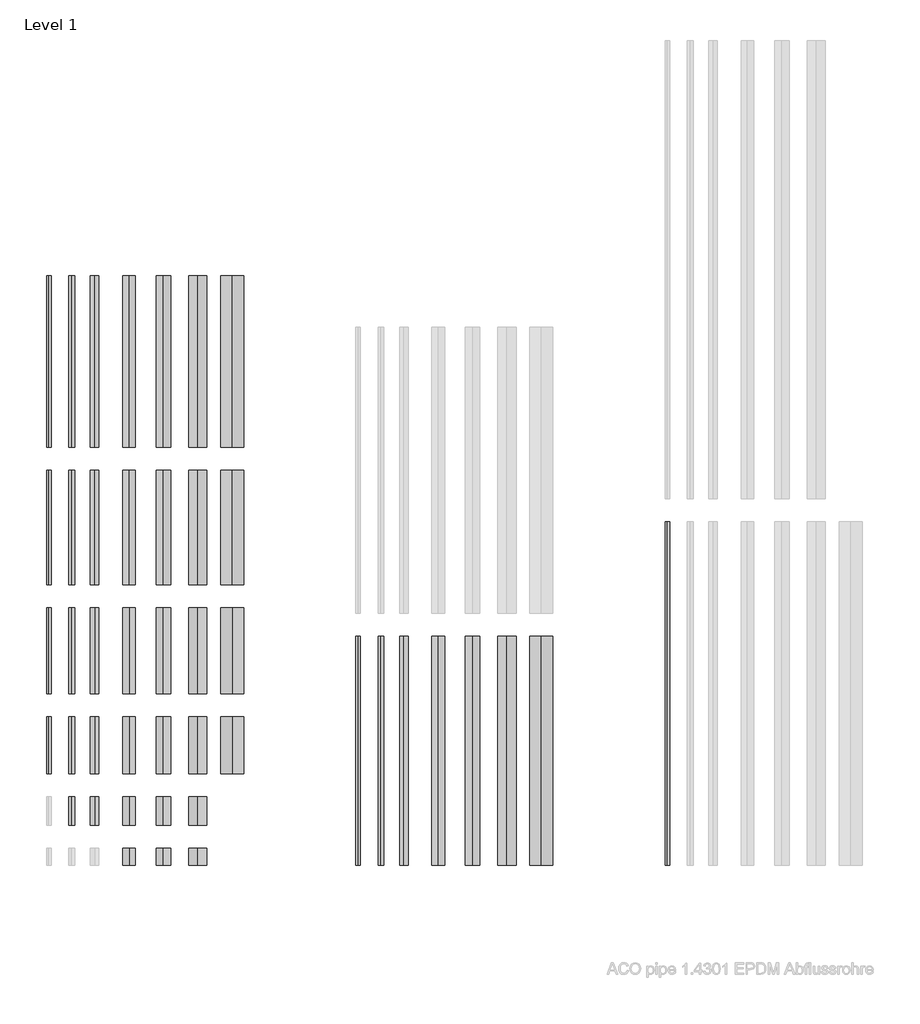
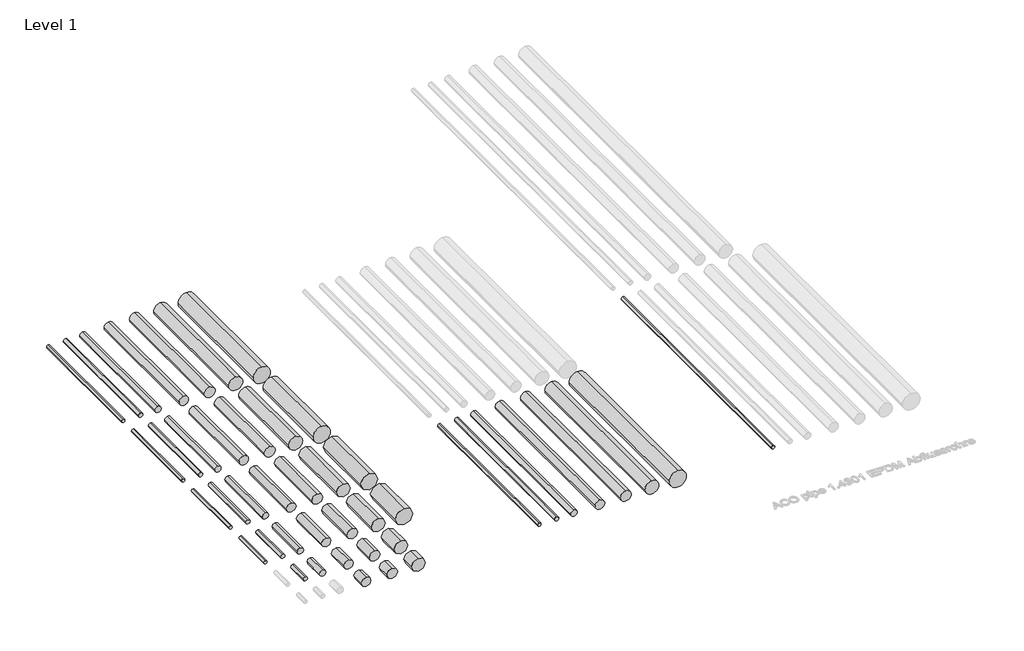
# One storey, part 6 of 13: 44 pipe segments.
"""IFC4 building model written with IfcOpenShell, lengths in millimetres."""

from ifc_helpers import new_model, si_unit, point, frame, frame_2d, origin, place, context, project, spatial, circle_curve, trimmed, segment, composite_curve, outline, extrude, element, save

model = new_model("IFC4")

# Units and contexts
model_context = context("Model", 3, world=origin())
ifc_project = project(units=[si_unit("LENGTHUNIT", "METRE", prefix="MILLI")], contexts=[model_context])

# Site, building, storey
site = spatial("IfcSite", under=ifc_project)
building = spatial("IfcBuilding", under=site)
storey = spatial("IfcBuildingStorey", under=building, Name="Level 1", Elevation=0.0)

# Pipe segments
placement = place(None, origin())
element("IfcPipeSegment", 1, ObjectType="ACO pipe 1.4301 OD (complex)", at=placement, inside=storey, context=model_context, shape_type="SweptSolid", body=[
    extrude(outline(composite_curve([segment(trimmed(circle_curve(frame_2d((0.0, -978.2538939)), 55.0), [point((0.0, -923.2538939))], [point((55.0, -978.2538939))], False, "CARTESIAN"), True, "CONTINUOUS"), segment(trimmed(circle_curve(frame_2d((0.0, -978.2538939)), 55.0), [point((55.0, -978.2538939))], [point((0.0, -1033.2538939))], False, "CARTESIAN"), True, "CONTINUOUS"), segment(trimmed(circle_curve(frame_2d((0.0, -978.2538939)), 55.0), [point((0.0, -1033.2538939))], [point((-55.0, -978.2538939))], False, "CARTESIAN"), True, "CONTINUOUS"), segment(trimmed(circle_curve(frame_2d((0.0, -978.2538939)), 55.0), [point((-55.0, -978.2538939))], [point((0.0, -923.2538939))], False, "CARTESIAN"), True, "CONTINUOUS")], self_intersect=False)), frame((0.0, -19.2114353, 0.0), z_axis=(0.0, 1.0, 0.0), x_axis=(0.0, 0.0, 1.0)), (0.0, 0.0, 1.0), 150.0),
])
element("IfcPipeSegment", 2, ObjectType="ACO pipe 1.4301 OD (complex)", at=placement, inside=storey, context=model_context, shape_type="SweptSolid", body=[
    extrude(outline(composite_curve([segment(trimmed(circle_curve(frame_2d((0.0, -678.2538939)), 62.5), [point((0.0, -615.7538939))], [point((62.5, -678.2538939))], False, "CARTESIAN"), True, "CONTINUOUS"), segment(trimmed(circle_curve(frame_2d((0.0, -678.2538939)), 62.5), [point((62.5, -678.2538939))], [point((0.0, -740.7538939))], False, "CARTESIAN"), True, "CONTINUOUS"), segment(trimmed(circle_curve(frame_2d((0.0, -678.2538939)), 62.5), [point((0.0, -740.7538939))], [point((-62.5, -678.2538939))], False, "CARTESIAN"), True, "CONTINUOUS"), segment(trimmed(circle_curve(frame_2d((0.0, -678.2538939)), 62.5), [point((-62.5, -678.2538939))], [point((0.0, -615.7538939))], False, "CARTESIAN"), True, "CONTINUOUS")], self_intersect=False)), frame((0.0, -19.2114353, 0.0), z_axis=(0.0, 1.0, 0.0), x_axis=(0.0, 0.0, 1.0)), (0.0, 0.0, 1.0), 150.0),
])
element("IfcPipeSegment", 3, ObjectType="ACO pipe 1.4301 OD (complex)", at=placement, inside=storey, context=model_context, shape_type="SweptSolid", body=[
    extrude(outline(composite_curve([segment(trimmed(circle_curve(frame_2d((0.0, -378.2538939)), 80.0), [point((0.0, -298.2538939))], [point((80.0, -378.2538939))], False, "CARTESIAN"), True, "CONTINUOUS"), segment(trimmed(circle_curve(frame_2d((0.0, -378.2538939)), 80.0), [point((80.0, -378.2538939))], [point((0.0, -458.2538939))], False, "CARTESIAN"), True, "CONTINUOUS"), segment(trimmed(circle_curve(frame_2d((0.0, -378.2538939)), 80.0), [point((0.0, -458.2538939))], [point((-80.0, -378.2538939))], False, "CARTESIAN"), True, "CONTINUOUS"), segment(trimmed(circle_curve(frame_2d((0.0, -378.2538939)), 80.0), [point((-80.0, -378.2538939))], [point((0.0, -298.2538939))], False, "CARTESIAN"), True, "CONTINUOUS")], self_intersect=False)), frame((0.0, -19.2114353, 0.0), z_axis=(0.0, 1.0, 0.0), x_axis=(0.0, 0.0, 1.0)), (0.0, 0.0, 1.0), 150.0),
])
element("IfcPipeSegment", 4, ObjectType="ACO pipe 1.4301 OD (complex)", at=placement, inside=storey, context=model_context, shape_type="SweptSolid", body=[
    extrude(outline(composite_curve([segment(trimmed(circle_curve(frame_2d((0.0, -1478.2538939)), 25.0), [point((0.0, -1453.2538939))], [point((25.0, -1478.2538939))], False, "CARTESIAN"), True, "CONTINUOUS"), segment(trimmed(circle_curve(frame_2d((0.0, -1478.2538939)), 25.0), [point((25.0, -1478.2538939))], [point((0.0, -1503.2538939))], False, "CARTESIAN"), True, "CONTINUOUS"), segment(trimmed(circle_curve(frame_2d((0.0, -1478.2538939)), 25.0), [point((0.0, -1503.2538939))], [point((-25.0, -1478.2538939))], False, "CARTESIAN"), True, "CONTINUOUS"), segment(trimmed(circle_curve(frame_2d((0.0, -1478.2538939)), 25.0), [point((-25.0, -1478.2538939))], [point((0.0, -1453.2538939))], False, "CARTESIAN"), True, "CONTINUOUS")], self_intersect=False)), frame((0.0, 330.7885647, 0.0), z_axis=(0.0, 1.0, 0.0), x_axis=(0.0, 0.0, 1.0)), (0.0, 0.0, 1.0), 250.0),
])
element("IfcPipeSegment", 5, ObjectType="ACO pipe 1.4301 OD (complex)", at=placement, inside=storey, context=model_context, shape_type="SweptSolid", body=[
    extrude(outline(composite_curve([segment(trimmed(circle_curve(frame_2d((0.0, -1278.2538939)), 37.5), [point((0.0, -1240.7538939))], [point((37.5, -1278.2538939))], False, "CARTESIAN"), True, "CONTINUOUS"), segment(trimmed(circle_curve(frame_2d((0.0, -1278.2538939)), 37.5), [point((37.5, -1278.2538939))], [point((0.0, -1315.7538939))], False, "CARTESIAN"), True, "CONTINUOUS"), segment(trimmed(circle_curve(frame_2d((0.0, -1278.2538939)), 37.5), [point((0.0, -1315.7538939))], [point((-37.5, -1278.2538939))], False, "CARTESIAN"), True, "CONTINUOUS"), segment(trimmed(circle_curve(frame_2d((0.0, -1278.2538939)), 37.5), [point((-37.5, -1278.2538939))], [point((0.0, -1240.7538939))], False, "CARTESIAN"), True, "CONTINUOUS")], self_intersect=False)), frame((0.0, 330.7885647, 0.0), z_axis=(0.0, 1.0, 0.0), x_axis=(0.0, 0.0, 1.0)), (0.0, 0.0, 1.0), 250.0),
])
element("IfcPipeSegment", 6, ObjectType="ACO pipe 1.4301 OD (complex)", at=placement, inside=storey, context=model_context, shape_type="SweptSolid", body=[
    extrude(outline(composite_curve([segment(trimmed(circle_curve(frame_2d((0.0, -978.2538939)), 55.0), [point((0.0, -923.2538939))], [point((55.0, -978.2538939))], False, "CARTESIAN"), True, "CONTINUOUS"), segment(trimmed(circle_curve(frame_2d((0.0, -978.2538939)), 55.0), [point((55.0, -978.2538939))], [point((0.0, -1033.2538939))], False, "CARTESIAN"), True, "CONTINUOUS"), segment(trimmed(circle_curve(frame_2d((0.0, -978.2538939)), 55.0), [point((0.0, -1033.2538939))], [point((-55.0, -978.2538939))], False, "CARTESIAN"), True, "CONTINUOUS"), segment(trimmed(circle_curve(frame_2d((0.0, -978.2538939)), 55.0), [point((-55.0, -978.2538939))], [point((0.0, -923.2538939))], False, "CARTESIAN"), True, "CONTINUOUS")], self_intersect=False)), frame((0.0, 330.7885647, 0.0), z_axis=(0.0, 1.0, 0.0), x_axis=(0.0, 0.0, 1.0)), (0.0, 0.0, 1.0), 250.0),
])
element("IfcPipeSegment", 7, ObjectType="ACO pipe 1.4301 OD (complex)", at=placement, inside=storey, context=model_context, shape_type="SweptSolid", body=[
    extrude(outline(composite_curve([segment(trimmed(circle_curve(frame_2d((0.0, -678.2538939)), 62.5), [point((0.0, -615.7538939))], [point((62.5, -678.2538939))], False, "CARTESIAN"), True, "CONTINUOUS"), segment(trimmed(circle_curve(frame_2d((0.0, -678.2538939)), 62.5), [point((62.5, -678.2538939))], [point((0.0, -740.7538939))], False, "CARTESIAN"), True, "CONTINUOUS"), segment(trimmed(circle_curve(frame_2d((0.0, -678.2538939)), 62.5), [point((0.0, -740.7538939))], [point((-62.5, -678.2538939))], False, "CARTESIAN"), True, "CONTINUOUS"), segment(trimmed(circle_curve(frame_2d((0.0, -678.2538939)), 62.5), [point((-62.5, -678.2538939))], [point((0.0, -615.7538939))], False, "CARTESIAN"), True, "CONTINUOUS")], self_intersect=False)), frame((0.0, 330.7885647, 0.0), z_axis=(0.0, 1.0, 0.0), x_axis=(0.0, 0.0, 1.0)), (0.0, 0.0, 1.0), 250.0),
])
element("IfcPipeSegment", 8, ObjectType="ACO pipe 1.4301 OD (complex)", at=placement, inside=storey, context=model_context, shape_type="SweptSolid", body=[
    extrude(outline(composite_curve([segment(trimmed(circle_curve(frame_2d((0.0, -378.2538939)), 80.0), [point((0.0, -298.2538939))], [point((80.0, -378.2538939))], False, "CARTESIAN"), True, "CONTINUOUS"), segment(trimmed(circle_curve(frame_2d((0.0, -378.2538939)), 80.0), [point((80.0, -378.2538939))], [point((0.0, -458.2538939))], False, "CARTESIAN"), True, "CONTINUOUS"), segment(trimmed(circle_curve(frame_2d((0.0, -378.2538939)), 80.0), [point((0.0, -458.2538939))], [point((-80.0, -378.2538939))], False, "CARTESIAN"), True, "CONTINUOUS"), segment(trimmed(circle_curve(frame_2d((0.0, -378.2538939)), 80.0), [point((-80.0, -378.2538939))], [point((0.0, -298.2538939))], False, "CARTESIAN"), True, "CONTINUOUS")], self_intersect=False)), frame((0.0, 330.7885647, 0.0), z_axis=(0.0, 1.0, 0.0), x_axis=(0.0, 0.0, 1.0)), (0.0, 0.0, 1.0), 250.0),
])
element("IfcPipeSegment", 9, ObjectType="ACO pipe 1.4301 OD (complex)", at=placement, inside=storey, context=model_context, shape_type="SweptSolid", body=[
    extrude(outline(composite_curve([segment(trimmed(circle_curve(frame_2d((0.0, -1678.2538939)), 20.0), [point((0.0, -1658.2538939))], [point((20.0, -1678.2538939))], False, "CARTESIAN"), True, "CONTINUOUS"), segment(trimmed(circle_curve(frame_2d((0.0, -1678.2538939)), 20.0), [point((20.0, -1678.2538939))], [point((0.0, -1698.2538939))], False, "CARTESIAN"), True, "CONTINUOUS"), segment(trimmed(circle_curve(frame_2d((0.0, -1678.2538939)), 20.0), [point((0.0, -1698.2538939))], [point((-20.0, -1678.2538939))], False, "CARTESIAN"), True, "CONTINUOUS"), segment(trimmed(circle_curve(frame_2d((0.0, -1678.2538939)), 20.0), [point((-20.0, -1678.2538939))], [point((0.0, -1658.2538939))], False, "CARTESIAN"), True, "CONTINUOUS")], self_intersect=False)), frame((0.0, 780.7885647, 0.0), z_axis=(0.0, 1.0, 0.0), x_axis=(0.0, 0.0, 1.0)), (0.0, 0.0, 1.0), 500.0),
])
element("IfcPipeSegment", 10, ObjectType="ACO pipe 1.4301 OD (complex)", at=placement, inside=storey, context=model_context, shape_type="SweptSolid", body=[
    extrude(outline(composite_curve([segment(trimmed(circle_curve(frame_2d((0.0, -1478.2538939)), 25.0), [point((0.0, -1453.2538939))], [point((25.0, -1478.2538939))], False, "CARTESIAN"), True, "CONTINUOUS"), segment(trimmed(circle_curve(frame_2d((0.0, -1478.2538939)), 25.0), [point((25.0, -1478.2538939))], [point((0.0, -1503.2538939))], False, "CARTESIAN"), True, "CONTINUOUS"), segment(trimmed(circle_curve(frame_2d((0.0, -1478.2538939)), 25.0), [point((0.0, -1503.2538939))], [point((-25.0, -1478.2538939))], False, "CARTESIAN"), True, "CONTINUOUS"), segment(trimmed(circle_curve(frame_2d((0.0, -1478.2538939)), 25.0), [point((-25.0, -1478.2538939))], [point((0.0, -1453.2538939))], False, "CARTESIAN"), True, "CONTINUOUS")], self_intersect=False)), frame((0.0, 780.7885647, 0.0), z_axis=(0.0, 1.0, 0.0), x_axis=(0.0, 0.0, 1.0)), (0.0, 0.0, 1.0), 500.0),
])
element("IfcPipeSegment", 11, ObjectType="ACO pipe 1.4301 OD (complex)", at=placement, inside=storey, context=model_context, shape_type="SweptSolid", body=[
    extrude(outline(composite_curve([segment(trimmed(circle_curve(frame_2d((0.0, -1278.2538939)), 37.5), [point((0.0, -1240.7538939))], [point((37.5, -1278.2538939))], False, "CARTESIAN"), True, "CONTINUOUS"), segment(trimmed(circle_curve(frame_2d((0.0, -1278.2538939)), 37.5), [point((37.5, -1278.2538939))], [point((0.0, -1315.7538939))], False, "CARTESIAN"), True, "CONTINUOUS"), segment(trimmed(circle_curve(frame_2d((0.0, -1278.2538939)), 37.5), [point((0.0, -1315.7538939))], [point((-37.5, -1278.2538939))], False, "CARTESIAN"), True, "CONTINUOUS"), segment(trimmed(circle_curve(frame_2d((0.0, -1278.2538939)), 37.5), [point((-37.5, -1278.2538939))], [point((0.0, -1240.7538939))], False, "CARTESIAN"), True, "CONTINUOUS")], self_intersect=False)), frame((0.0, 780.7885647, 0.0), z_axis=(0.0, 1.0, 0.0), x_axis=(0.0, 0.0, 1.0)), (0.0, 0.0, 1.0), 500.0),
])
element("IfcPipeSegment", 12, ObjectType="ACO pipe 1.4301 OD (complex)", at=placement, inside=storey, context=model_context, shape_type="SweptSolid", body=[
    extrude(outline(composite_curve([segment(trimmed(circle_curve(frame_2d((0.0, -978.2538939)), 55.0), [point((0.0, -923.2538939))], [point((55.0, -978.2538939))], False, "CARTESIAN"), True, "CONTINUOUS"), segment(trimmed(circle_curve(frame_2d((0.0, -978.2538939)), 55.0), [point((55.0, -978.2538939))], [point((0.0, -1033.2538939))], False, "CARTESIAN"), True, "CONTINUOUS"), segment(trimmed(circle_curve(frame_2d((0.0, -978.2538939)), 55.0), [point((0.0, -1033.2538939))], [point((-55.0, -978.2538939))], False, "CARTESIAN"), True, "CONTINUOUS"), segment(trimmed(circle_curve(frame_2d((0.0, -978.2538939)), 55.0), [point((-55.0, -978.2538939))], [point((0.0, -923.2538939))], False, "CARTESIAN"), True, "CONTINUOUS")], self_intersect=False)), frame((0.0, 780.7885647, 0.0), z_axis=(0.0, 1.0, 0.0), x_axis=(0.0, 0.0, 1.0)), (0.0, 0.0, 1.0), 500.0),
])
element("IfcPipeSegment", 13, ObjectType="ACO pipe 1.4301 OD (complex)", at=placement, inside=storey, context=model_context, shape_type="SweptSolid", body=[
    extrude(outline(composite_curve([segment(trimmed(circle_curve(frame_2d((0.0, -678.2538939)), 62.5), [point((0.0, -615.7538939))], [point((62.5, -678.2538939))], False, "CARTESIAN"), True, "CONTINUOUS"), segment(trimmed(circle_curve(frame_2d((0.0, -678.2538939)), 62.5), [point((62.5, -678.2538939))], [point((0.0, -740.7538939))], False, "CARTESIAN"), True, "CONTINUOUS"), segment(trimmed(circle_curve(frame_2d((0.0, -678.2538939)), 62.5), [point((0.0, -740.7538939))], [point((-62.5, -678.2538939))], False, "CARTESIAN"), True, "CONTINUOUS"), segment(trimmed(circle_curve(frame_2d((0.0, -678.2538939)), 62.5), [point((-62.5, -678.2538939))], [point((0.0, -615.7538939))], False, "CARTESIAN"), True, "CONTINUOUS")], self_intersect=False)), frame((0.0, 780.7885647, 0.0), z_axis=(0.0, 1.0, 0.0), x_axis=(0.0, 0.0, 1.0)), (0.0, 0.0, 1.0), 500.0),
])
element("IfcPipeSegment", 14, ObjectType="ACO pipe 1.4301 OD (complex)", at=placement, inside=storey, context=model_context, shape_type="SweptSolid", body=[
    extrude(outline(composite_curve([segment(trimmed(circle_curve(frame_2d((0.0, -378.2538939)), 80.0), [point((0.0, -298.2538939))], [point((80.0, -378.2538939))], False, "CARTESIAN"), True, "CONTINUOUS"), segment(trimmed(circle_curve(frame_2d((0.0, -378.2538939)), 80.0), [point((80.0, -378.2538939))], [point((0.0, -458.2538939))], False, "CARTESIAN"), True, "CONTINUOUS"), segment(trimmed(circle_curve(frame_2d((0.0, -378.2538939)), 80.0), [point((0.0, -458.2538939))], [point((-80.0, -378.2538939))], False, "CARTESIAN"), True, "CONTINUOUS"), segment(trimmed(circle_curve(frame_2d((0.0, -378.2538939)), 80.0), [point((-80.0, -378.2538939))], [point((0.0, -298.2538939))], False, "CARTESIAN"), True, "CONTINUOUS")], self_intersect=False)), frame((0.0, 780.7885647, 0.0), z_axis=(0.0, 1.0, 0.0), x_axis=(0.0, 0.0, 1.0)), (0.0, 0.0, 1.0), 500.0),
])
element("IfcPipeSegment", 15, ObjectType="ACO pipe 1.4301 OD (complex)", at=placement, inside=storey, context=model_context, shape_type="SweptSolid", body=[
    extrude(outline(composite_curve([segment(trimmed(circle_curve(frame_2d((0.0, -78.2538939)), 100.0), [point((0.0, 21.7461061))], [point((100.0, -78.2538939))], False, "CARTESIAN"), True, "CONTINUOUS"), segment(trimmed(circle_curve(frame_2d((0.0, -78.2538939)), 100.0), [point((100.0, -78.2538939))], [point((0.0, -178.2538939))], False, "CARTESIAN"), True, "CONTINUOUS"), segment(trimmed(circle_curve(frame_2d((0.0, -78.2538939)), 100.0), [point((0.0, -178.2538939))], [point((-100.0, -78.2538939))], False, "CARTESIAN"), True, "CONTINUOUS"), segment(trimmed(circle_curve(frame_2d((0.0, -78.2538939)), 100.0), [point((-100.0, -78.2538939))], [point((0.0, 21.7461061))], False, "CARTESIAN"), True, "CONTINUOUS")], self_intersect=False)), frame((0.0, 780.7885647, 0.0), z_axis=(0.0, 1.0, 0.0), x_axis=(0.0, 0.0, 1.0)), (0.0, 0.0, 1.0), 500.0),
])
element("IfcPipeSegment", 16, ObjectType="ACO pipe 1.4301 OD (complex)", at=placement, inside=storey, context=model_context, shape_type="SweptSolid", body=[
    extrude(outline(composite_curve([segment(trimmed(circle_curve(frame_2d((0.0, -1678.2538939)), 20.0), [point((0.0, -1658.2538939))], [point((20.0, -1678.2538939))], False, "CARTESIAN"), True, "CONTINUOUS"), segment(trimmed(circle_curve(frame_2d((0.0, -1678.2538939)), 20.0), [point((20.0, -1678.2538939))], [point((0.0, -1698.2538939))], False, "CARTESIAN"), True, "CONTINUOUS"), segment(trimmed(circle_curve(frame_2d((0.0, -1678.2538939)), 20.0), [point((0.0, -1698.2538939))], [point((-20.0, -1678.2538939))], False, "CARTESIAN"), True, "CONTINUOUS"), segment(trimmed(circle_curve(frame_2d((0.0, -1678.2538939)), 20.0), [point((-20.0, -1678.2538939))], [point((0.0, -1658.2538939))], False, "CARTESIAN"), True, "CONTINUOUS")], self_intersect=False)), frame((0.0, 1480.7885647, 0.0), z_axis=(0.0, 1.0, 0.0), x_axis=(0.0, 0.0, 1.0)), (0.0, 0.0, 1.0), 750.0),
])
element("IfcPipeSegment", 17, ObjectType="ACO pipe 1.4301 OD (complex)", at=placement, inside=storey, context=model_context, shape_type="SweptSolid", body=[
    extrude(outline(composite_curve([segment(trimmed(circle_curve(frame_2d((0.0, -1478.2538939)), 25.0), [point((0.0, -1453.2538939))], [point((25.0, -1478.2538939))], False, "CARTESIAN"), True, "CONTINUOUS"), segment(trimmed(circle_curve(frame_2d((0.0, -1478.2538939)), 25.0), [point((25.0, -1478.2538939))], [point((0.0, -1503.2538939))], False, "CARTESIAN"), True, "CONTINUOUS"), segment(trimmed(circle_curve(frame_2d((0.0, -1478.2538939)), 25.0), [point((0.0, -1503.2538939))], [point((-25.0, -1478.2538939))], False, "CARTESIAN"), True, "CONTINUOUS"), segment(trimmed(circle_curve(frame_2d((0.0, -1478.2538939)), 25.0), [point((-25.0, -1478.2538939))], [point((0.0, -1453.2538939))], False, "CARTESIAN"), True, "CONTINUOUS")], self_intersect=False)), frame((0.0, 1480.7885647, 0.0), z_axis=(0.0, 1.0, 0.0), x_axis=(0.0, 0.0, 1.0)), (0.0, 0.0, 1.0), 750.0),
])
element("IfcPipeSegment", 18, ObjectType="ACO pipe 1.4301 OD (complex)", at=placement, inside=storey, context=model_context, shape_type="SweptSolid", body=[
    extrude(outline(composite_curve([segment(trimmed(circle_curve(frame_2d((0.0, -1278.2538939)), 37.5), [point((0.0, -1240.7538939))], [point((37.5, -1278.2538939))], False, "CARTESIAN"), True, "CONTINUOUS"), segment(trimmed(circle_curve(frame_2d((0.0, -1278.2538939)), 37.5), [point((37.5, -1278.2538939))], [point((0.0, -1315.7538939))], False, "CARTESIAN"), True, "CONTINUOUS"), segment(trimmed(circle_curve(frame_2d((0.0, -1278.2538939)), 37.5), [point((0.0, -1315.7538939))], [point((-37.5, -1278.2538939))], False, "CARTESIAN"), True, "CONTINUOUS"), segment(trimmed(circle_curve(frame_2d((0.0, -1278.2538939)), 37.5), [point((-37.5, -1278.2538939))], [point((0.0, -1240.7538939))], False, "CARTESIAN"), True, "CONTINUOUS")], self_intersect=False)), frame((0.0, 1480.7885647, 0.0), z_axis=(0.0, 1.0, 0.0), x_axis=(0.0, 0.0, 1.0)), (0.0, 0.0, 1.0), 750.0),
])
element("IfcPipeSegment", 19, ObjectType="ACO pipe 1.4301 OD (complex)", at=placement, inside=storey, context=model_context, shape_type="SweptSolid", body=[
    extrude(outline(composite_curve([segment(trimmed(circle_curve(frame_2d((0.0, -978.2538939)), 55.0), [point((0.0, -923.2538939))], [point((55.0, -978.2538939))], False, "CARTESIAN"), True, "CONTINUOUS"), segment(trimmed(circle_curve(frame_2d((0.0, -978.2538939)), 55.0), [point((55.0, -978.2538939))], [point((0.0, -1033.2538939))], False, "CARTESIAN"), True, "CONTINUOUS"), segment(trimmed(circle_curve(frame_2d((0.0, -978.2538939)), 55.0), [point((0.0, -1033.2538939))], [point((-55.0, -978.2538939))], False, "CARTESIAN"), True, "CONTINUOUS"), segment(trimmed(circle_curve(frame_2d((0.0, -978.2538939)), 55.0), [point((-55.0, -978.2538939))], [point((0.0, -923.2538939))], False, "CARTESIAN"), True, "CONTINUOUS")], self_intersect=False)), frame((0.0, 1480.7885647, 0.0), z_axis=(0.0, 1.0, 0.0), x_axis=(0.0, 0.0, 1.0)), (0.0, 0.0, 1.0), 750.0),
])
element("IfcPipeSegment", 20, ObjectType="ACO pipe 1.4301 OD (complex)", at=placement, inside=storey, context=model_context, shape_type="SweptSolid", body=[
    extrude(outline(composite_curve([segment(trimmed(circle_curve(frame_2d((0.0, -678.2538939)), 62.5), [point((0.0, -615.7538939))], [point((62.5, -678.2538939))], False, "CARTESIAN"), True, "CONTINUOUS"), segment(trimmed(circle_curve(frame_2d((0.0, -678.2538939)), 62.5), [point((62.5, -678.2538939))], [point((0.0, -740.7538939))], False, "CARTESIAN"), True, "CONTINUOUS"), segment(trimmed(circle_curve(frame_2d((0.0, -678.2538939)), 62.5), [point((0.0, -740.7538939))], [point((-62.5, -678.2538939))], False, "CARTESIAN"), True, "CONTINUOUS"), segment(trimmed(circle_curve(frame_2d((0.0, -678.2538939)), 62.5), [point((-62.5, -678.2538939))], [point((0.0, -615.7538939))], False, "CARTESIAN"), True, "CONTINUOUS")], self_intersect=False)), frame((0.0, 1480.7885647, 0.0), z_axis=(0.0, 1.0, 0.0), x_axis=(0.0, 0.0, 1.0)), (0.0, 0.0, 1.0), 750.0),
])
element("IfcPipeSegment", 21, ObjectType="ACO pipe 1.4301 OD (complex)", at=placement, inside=storey, context=model_context, shape_type="SweptSolid", body=[
    extrude(outline(composite_curve([segment(trimmed(circle_curve(frame_2d((0.0, -378.2538939)), 80.0), [point((0.0, -298.2538939))], [point((80.0, -378.2538939))], False, "CARTESIAN"), True, "CONTINUOUS"), segment(trimmed(circle_curve(frame_2d((0.0, -378.2538939)), 80.0), [point((80.0, -378.2538939))], [point((0.0, -458.2538939))], False, "CARTESIAN"), True, "CONTINUOUS"), segment(trimmed(circle_curve(frame_2d((0.0, -378.2538939)), 80.0), [point((0.0, -458.2538939))], [point((-80.0, -378.2538939))], False, "CARTESIAN"), True, "CONTINUOUS"), segment(trimmed(circle_curve(frame_2d((0.0, -378.2538939)), 80.0), [point((-80.0, -378.2538939))], [point((0.0, -298.2538939))], False, "CARTESIAN"), True, "CONTINUOUS")], self_intersect=False)), frame((0.0, 1480.7885647, 0.0), z_axis=(0.0, 1.0, 0.0), x_axis=(0.0, 0.0, 1.0)), (0.0, 0.0, 1.0), 750.0),
])
element("IfcPipeSegment", 22, ObjectType="ACO pipe 1.4301 OD (complex)", at=placement, inside=storey, context=model_context, shape_type="SweptSolid", body=[
    extrude(outline(composite_curve([segment(trimmed(circle_curve(frame_2d((0.0, -78.2538939)), 100.0), [point((0.0, 21.7461061))], [point((100.0, -78.2538939))], False, "CARTESIAN"), True, "CONTINUOUS"), segment(trimmed(circle_curve(frame_2d((0.0, -78.2538939)), 100.0), [point((100.0, -78.2538939))], [point((0.0, -178.2538939))], False, "CARTESIAN"), True, "CONTINUOUS"), segment(trimmed(circle_curve(frame_2d((0.0, -78.2538939)), 100.0), [point((0.0, -178.2538939))], [point((-100.0, -78.2538939))], False, "CARTESIAN"), True, "CONTINUOUS"), segment(trimmed(circle_curve(frame_2d((0.0, -78.2538939)), 100.0), [point((-100.0, -78.2538939))], [point((0.0, 21.7461061))], False, "CARTESIAN"), True, "CONTINUOUS")], self_intersect=False)), frame((0.0, 1480.7885647, 0.0), z_axis=(0.0, 1.0, 0.0), x_axis=(0.0, 0.0, 1.0)), (0.0, 0.0, 1.0), 750.0),
])
element("IfcPipeSegment", 23, ObjectType="ACO pipe 1.4301 OD (complex)", at=placement, inside=storey, context=model_context, shape_type="SweptSolid", body=[
    extrude(outline(composite_curve([segment(trimmed(circle_curve(frame_2d((0.0, -1678.2538939)), 20.0), [point((0.0, -1658.2538939))], [point((20.0, -1678.2538939))], False, "CARTESIAN"), True, "CONTINUOUS"), segment(trimmed(circle_curve(frame_2d((0.0, -1678.2538939)), 20.0), [point((20.0, -1678.2538939))], [point((0.0, -1698.2538939))], False, "CARTESIAN"), True, "CONTINUOUS"), segment(trimmed(circle_curve(frame_2d((0.0, -1678.2538939)), 20.0), [point((0.0, -1698.2538939))], [point((-20.0, -1678.2538939))], False, "CARTESIAN"), True, "CONTINUOUS"), segment(trimmed(circle_curve(frame_2d((0.0, -1678.2538939)), 20.0), [point((-20.0, -1678.2538939))], [point((0.0, -1658.2538939))], False, "CARTESIAN"), True, "CONTINUOUS")], self_intersect=False)), frame((0.0, 2430.7885647, 0.0), z_axis=(0.0, 1.0, 0.0), x_axis=(0.0, 0.0, 1.0)), (0.0, 0.0, 1.0), 1000.0),
])
element("IfcPipeSegment", 24, ObjectType="ACO pipe 1.4301 OD (complex)", at=placement, inside=storey, context=model_context, shape_type="SweptSolid", body=[
    extrude(outline(composite_curve([segment(trimmed(circle_curve(frame_2d((0.0, -1478.2538939)), 25.0), [point((0.0, -1453.2538939))], [point((25.0, -1478.2538939))], False, "CARTESIAN"), True, "CONTINUOUS"), segment(trimmed(circle_curve(frame_2d((0.0, -1478.2538939)), 25.0), [point((25.0, -1478.2538939))], [point((0.0, -1503.2538939))], False, "CARTESIAN"), True, "CONTINUOUS"), segment(trimmed(circle_curve(frame_2d((0.0, -1478.2538939)), 25.0), [point((0.0, -1503.2538939))], [point((-25.0, -1478.2538939))], False, "CARTESIAN"), True, "CONTINUOUS"), segment(trimmed(circle_curve(frame_2d((0.0, -1478.2538939)), 25.0), [point((-25.0, -1478.2538939))], [point((0.0, -1453.2538939))], False, "CARTESIAN"), True, "CONTINUOUS")], self_intersect=False)), frame((0.0, 2430.7885647, 0.0), z_axis=(0.0, 1.0, 0.0), x_axis=(0.0, 0.0, 1.0)), (0.0, 0.0, 1.0), 1000.0),
])
element("IfcPipeSegment", 25, ObjectType="ACO pipe 1.4301 OD (complex)", at=placement, inside=storey, context=model_context, shape_type="SweptSolid", body=[
    extrude(outline(composite_curve([segment(trimmed(circle_curve(frame_2d((0.0, -1278.2538939)), 37.5), [point((0.0, -1240.7538939))], [point((37.5, -1278.2538939))], False, "CARTESIAN"), True, "CONTINUOUS"), segment(trimmed(circle_curve(frame_2d((0.0, -1278.2538939)), 37.5), [point((37.5, -1278.2538939))], [point((0.0, -1315.7538939))], False, "CARTESIAN"), True, "CONTINUOUS"), segment(trimmed(circle_curve(frame_2d((0.0, -1278.2538939)), 37.5), [point((0.0, -1315.7538939))], [point((-37.5, -1278.2538939))], False, "CARTESIAN"), True, "CONTINUOUS"), segment(trimmed(circle_curve(frame_2d((0.0, -1278.2538939)), 37.5), [point((-37.5, -1278.2538939))], [point((0.0, -1240.7538939))], False, "CARTESIAN"), True, "CONTINUOUS")], self_intersect=False)), frame((0.0, 2430.7885647, 0.0), z_axis=(0.0, 1.0, 0.0), x_axis=(0.0, 0.0, 1.0)), (0.0, 0.0, 1.0), 1000.0),
])
element("IfcPipeSegment", 26, ObjectType="ACO pipe 1.4301 OD (complex)", at=placement, inside=storey, context=model_context, shape_type="SweptSolid", body=[
    extrude(outline(composite_curve([segment(trimmed(circle_curve(frame_2d((0.0, -978.2538939)), 55.0), [point((0.0, -923.2538939))], [point((55.0, -978.2538939))], False, "CARTESIAN"), True, "CONTINUOUS"), segment(trimmed(circle_curve(frame_2d((0.0, -978.2538939)), 55.0), [point((55.0, -978.2538939))], [point((0.0, -1033.2538939))], False, "CARTESIAN"), True, "CONTINUOUS"), segment(trimmed(circle_curve(frame_2d((0.0, -978.2538939)), 55.0), [point((0.0, -1033.2538939))], [point((-55.0, -978.2538939))], False, "CARTESIAN"), True, "CONTINUOUS"), segment(trimmed(circle_curve(frame_2d((0.0, -978.2538939)), 55.0), [point((-55.0, -978.2538939))], [point((0.0, -923.2538939))], False, "CARTESIAN"), True, "CONTINUOUS")], self_intersect=False)), frame((0.0, 2430.7885647, 0.0), z_axis=(0.0, 1.0, 0.0), x_axis=(0.0, 0.0, 1.0)), (0.0, 0.0, 1.0), 1000.0),
])
element("IfcPipeSegment", 27, ObjectType="ACO pipe 1.4301 OD (complex)", at=placement, inside=storey, context=model_context, shape_type="SweptSolid", body=[
    extrude(outline(composite_curve([segment(trimmed(circle_curve(frame_2d((0.0, -678.2538939)), 62.5), [point((0.0, -615.7538939))], [point((62.5, -678.2538939))], False, "CARTESIAN"), True, "CONTINUOUS"), segment(trimmed(circle_curve(frame_2d((0.0, -678.2538939)), 62.5), [point((62.5, -678.2538939))], [point((0.0, -740.7538939))], False, "CARTESIAN"), True, "CONTINUOUS"), segment(trimmed(circle_curve(frame_2d((0.0, -678.2538939)), 62.5), [point((0.0, -740.7538939))], [point((-62.5, -678.2538939))], False, "CARTESIAN"), True, "CONTINUOUS"), segment(trimmed(circle_curve(frame_2d((0.0, -678.2538939)), 62.5), [point((-62.5, -678.2538939))], [point((0.0, -615.7538939))], False, "CARTESIAN"), True, "CONTINUOUS")], self_intersect=False)), frame((0.0, 2430.7885647, 0.0), z_axis=(0.0, 1.0, 0.0), x_axis=(0.0, 0.0, 1.0)), (0.0, 0.0, 1.0), 1000.0),
])
element("IfcPipeSegment", 28, ObjectType="ACO pipe 1.4301 OD (complex)", at=placement, inside=storey, context=model_context, shape_type="SweptSolid", body=[
    extrude(outline(composite_curve([segment(trimmed(circle_curve(frame_2d((0.0, -378.2538939)), 80.0), [point((0.0, -298.2538939))], [point((80.0, -378.2538939))], False, "CARTESIAN"), True, "CONTINUOUS"), segment(trimmed(circle_curve(frame_2d((0.0, -378.2538939)), 80.0), [point((80.0, -378.2538939))], [point((0.0, -458.2538939))], False, "CARTESIAN"), True, "CONTINUOUS"), segment(trimmed(circle_curve(frame_2d((0.0, -378.2538939)), 80.0), [point((0.0, -458.2538939))], [point((-80.0, -378.2538939))], False, "CARTESIAN"), True, "CONTINUOUS"), segment(trimmed(circle_curve(frame_2d((0.0, -378.2538939)), 80.0), [point((-80.0, -378.2538939))], [point((0.0, -298.2538939))], False, "CARTESIAN"), True, "CONTINUOUS")], self_intersect=False)), frame((0.0, 2430.7885647, 0.0), z_axis=(0.0, 1.0, 0.0), x_axis=(0.0, 0.0, 1.0)), (0.0, 0.0, 1.0), 1000.0),
])
element("IfcPipeSegment", 29, ObjectType="ACO pipe 1.4301 OD (complex)", at=placement, inside=storey, context=model_context, shape_type="SweptSolid", body=[
    extrude(outline(composite_curve([segment(trimmed(circle_curve(frame_2d((0.0, -78.2538939)), 100.0), [point((0.0, 21.7461061))], [point((100.0, -78.2538939))], False, "CARTESIAN"), True, "CONTINUOUS"), segment(trimmed(circle_curve(frame_2d((0.0, -78.2538939)), 100.0), [point((100.0, -78.2538939))], [point((0.0, -178.2538939))], False, "CARTESIAN"), True, "CONTINUOUS"), segment(trimmed(circle_curve(frame_2d((0.0, -78.2538939)), 100.0), [point((0.0, -178.2538939))], [point((-100.0, -78.2538939))], False, "CARTESIAN"), True, "CONTINUOUS"), segment(trimmed(circle_curve(frame_2d((0.0, -78.2538939)), 100.0), [point((-100.0, -78.2538939))], [point((0.0, 21.7461061))], False, "CARTESIAN"), True, "CONTINUOUS")], self_intersect=False)), frame((0.0, 2430.7885647, 0.0), z_axis=(0.0, 1.0, 0.0), x_axis=(0.0, 0.0, 1.0)), (0.0, 0.0, 1.0), 1000.0),
])
element("IfcPipeSegment", 30, ObjectType="ACO pipe 1.4301 OD (complex)", at=placement, inside=storey, context=model_context, shape_type="SweptSolid", body=[
    extrude(outline(composite_curve([segment(trimmed(circle_curve(frame_2d((0.0, -1678.2538939)), 20.0), [point((0.0, -1658.2538939))], [point((20.0, -1678.2538939))], False, "CARTESIAN"), True, "CONTINUOUS"), segment(trimmed(circle_curve(frame_2d((0.0, -1678.2538939)), 20.0), [point((20.0, -1678.2538939))], [point((0.0, -1698.2538939))], False, "CARTESIAN"), True, "CONTINUOUS"), segment(trimmed(circle_curve(frame_2d((0.0, -1678.2538939)), 20.0), [point((0.0, -1698.2538939))], [point((-20.0, -1678.2538939))], False, "CARTESIAN"), True, "CONTINUOUS"), segment(trimmed(circle_curve(frame_2d((0.0, -1678.2538939)), 20.0), [point((-20.0, -1678.2538939))], [point((0.0, -1658.2538939))], False, "CARTESIAN"), True, "CONTINUOUS")], self_intersect=False)), frame((0.0, 3630.7885647, 0.0), z_axis=(0.0, 1.0, 0.0), x_axis=(0.0, 0.0, 1.0)), (0.0, 0.0, 1.0), 1500.0),
])
element("IfcPipeSegment", 31, ObjectType="ACO pipe 1.4301 OD (complex)", at=placement, inside=storey, context=model_context, shape_type="SweptSolid", body=[
    extrude(outline(composite_curve([segment(trimmed(circle_curve(frame_2d((0.0, -1478.2538939)), 25.0), [point((0.0, -1453.2538939))], [point((25.0, -1478.2538939))], False, "CARTESIAN"), True, "CONTINUOUS"), segment(trimmed(circle_curve(frame_2d((0.0, -1478.2538939)), 25.0), [point((25.0, -1478.2538939))], [point((0.0, -1503.2538939))], False, "CARTESIAN"), True, "CONTINUOUS"), segment(trimmed(circle_curve(frame_2d((0.0, -1478.2538939)), 25.0), [point((0.0, -1503.2538939))], [point((-25.0, -1478.2538939))], False, "CARTESIAN"), True, "CONTINUOUS"), segment(trimmed(circle_curve(frame_2d((0.0, -1478.2538939)), 25.0), [point((-25.0, -1478.2538939))], [point((0.0, -1453.2538939))], False, "CARTESIAN"), True, "CONTINUOUS")], self_intersect=False)), frame((0.0, 3630.7885647, 0.0), z_axis=(0.0, 1.0, 0.0), x_axis=(0.0, 0.0, 1.0)), (0.0, 0.0, 1.0), 1500.0),
])
element("IfcPipeSegment", 32, ObjectType="ACO pipe 1.4301 OD (complex)", at=placement, inside=storey, context=model_context, shape_type="SweptSolid", body=[
    extrude(outline(composite_curve([segment(trimmed(circle_curve(frame_2d((0.0, -1278.2538939)), 37.5), [point((0.0, -1240.7538939))], [point((37.5, -1278.2538939))], False, "CARTESIAN"), True, "CONTINUOUS"), segment(trimmed(circle_curve(frame_2d((0.0, -1278.2538939)), 37.5), [point((37.5, -1278.2538939))], [point((0.0, -1315.7538939))], False, "CARTESIAN"), True, "CONTINUOUS"), segment(trimmed(circle_curve(frame_2d((0.0, -1278.2538939)), 37.5), [point((0.0, -1315.7538939))], [point((-37.5, -1278.2538939))], False, "CARTESIAN"), True, "CONTINUOUS"), segment(trimmed(circle_curve(frame_2d((0.0, -1278.2538939)), 37.5), [point((-37.5, -1278.2538939))], [point((0.0, -1240.7538939))], False, "CARTESIAN"), True, "CONTINUOUS")], self_intersect=False)), frame((0.0, 3630.7885647, 0.0), z_axis=(0.0, 1.0, 0.0), x_axis=(0.0, 0.0, 1.0)), (0.0, 0.0, 1.0), 1500.0),
])
element("IfcPipeSegment", 33, ObjectType="ACO pipe 1.4301 OD (complex)", at=placement, inside=storey, context=model_context, shape_type="SweptSolid", body=[
    extrude(outline(composite_curve([segment(trimmed(circle_curve(frame_2d((0.0, -978.2538939)), 55.0), [point((0.0, -923.2538939))], [point((55.0, -978.2538939))], False, "CARTESIAN"), True, "CONTINUOUS"), segment(trimmed(circle_curve(frame_2d((0.0, -978.2538939)), 55.0), [point((55.0, -978.2538939))], [point((0.0, -1033.2538939))], False, "CARTESIAN"), True, "CONTINUOUS"), segment(trimmed(circle_curve(frame_2d((0.0, -978.2538939)), 55.0), [point((0.0, -1033.2538939))], [point((-55.0, -978.2538939))], False, "CARTESIAN"), True, "CONTINUOUS"), segment(trimmed(circle_curve(frame_2d((0.0, -978.2538939)), 55.0), [point((-55.0, -978.2538939))], [point((0.0, -923.2538939))], False, "CARTESIAN"), True, "CONTINUOUS")], self_intersect=False)), frame((0.0, 3630.7885647, 0.0), z_axis=(0.0, 1.0, 0.0), x_axis=(0.0, 0.0, 1.0)), (0.0, 0.0, 1.0), 1500.0),
])
element("IfcPipeSegment", 34, ObjectType="ACO pipe 1.4301 OD (complex)", at=placement, inside=storey, context=model_context, shape_type="SweptSolid", body=[
    extrude(outline(composite_curve([segment(trimmed(circle_curve(frame_2d((0.0, -678.2538939)), 62.5), [point((0.0, -615.7538939))], [point((62.5, -678.2538939))], False, "CARTESIAN"), True, "CONTINUOUS"), segment(trimmed(circle_curve(frame_2d((0.0, -678.2538939)), 62.5), [point((62.5, -678.2538939))], [point((0.0, -740.7538939))], False, "CARTESIAN"), True, "CONTINUOUS"), segment(trimmed(circle_curve(frame_2d((0.0, -678.2538939)), 62.5), [point((0.0, -740.7538939))], [point((-62.5, -678.2538939))], False, "CARTESIAN"), True, "CONTINUOUS"), segment(trimmed(circle_curve(frame_2d((0.0, -678.2538939)), 62.5), [point((-62.5, -678.2538939))], [point((0.0, -615.7538939))], False, "CARTESIAN"), True, "CONTINUOUS")], self_intersect=False)), frame((0.0, 3630.7885647, 0.0), z_axis=(0.0, 1.0, 0.0), x_axis=(0.0, 0.0, 1.0)), (0.0, 0.0, 1.0), 1500.0),
])
element("IfcPipeSegment", 35, ObjectType="ACO pipe 1.4301 OD (complex)", at=placement, inside=storey, context=model_context, shape_type="SweptSolid", body=[
    extrude(outline(composite_curve([segment(trimmed(circle_curve(frame_2d((0.0, -378.2538939)), 80.0), [point((0.0, -298.2538939))], [point((80.0, -378.2538939))], False, "CARTESIAN"), True, "CONTINUOUS"), segment(trimmed(circle_curve(frame_2d((0.0, -378.2538939)), 80.0), [point((80.0, -378.2538939))], [point((0.0, -458.2538939))], False, "CARTESIAN"), True, "CONTINUOUS"), segment(trimmed(circle_curve(frame_2d((0.0, -378.2538939)), 80.0), [point((0.0, -458.2538939))], [point((-80.0, -378.2538939))], False, "CARTESIAN"), True, "CONTINUOUS"), segment(trimmed(circle_curve(frame_2d((0.0, -378.2538939)), 80.0), [point((-80.0, -378.2538939))], [point((0.0, -298.2538939))], False, "CARTESIAN"), True, "CONTINUOUS")], self_intersect=False)), frame((0.0, 3630.7885647, 0.0), z_axis=(0.0, 1.0, 0.0), x_axis=(0.0, 0.0, 1.0)), (0.0, 0.0, 1.0), 1500.0),
])
element("IfcPipeSegment", 36, ObjectType="ACO pipe 1.4301 OD (complex)", at=placement, inside=storey, context=model_context, shape_type="SweptSolid", body=[
    extrude(outline(composite_curve([segment(trimmed(circle_curve(frame_2d((0.0, -78.2538939)), 100.0), [point((0.0, 21.7461061))], [point((100.0, -78.2538939))], False, "CARTESIAN"), True, "CONTINUOUS"), segment(trimmed(circle_curve(frame_2d((0.0, -78.2538939)), 100.0), [point((100.0, -78.2538939))], [point((0.0, -178.2538939))], False, "CARTESIAN"), True, "CONTINUOUS"), segment(trimmed(circle_curve(frame_2d((0.0, -78.2538939)), 100.0), [point((0.0, -178.2538939))], [point((-100.0, -78.2538939))], False, "CARTESIAN"), True, "CONTINUOUS"), segment(trimmed(circle_curve(frame_2d((0.0, -78.2538939)), 100.0), [point((-100.0, -78.2538939))], [point((0.0, 21.7461061))], False, "CARTESIAN"), True, "CONTINUOUS")], self_intersect=False)), frame((0.0, 3630.7885647, 0.0), z_axis=(0.0, 1.0, 0.0), x_axis=(0.0, 0.0, 1.0)), (0.0, 0.0, 1.0), 1500.0),
])
element("IfcPipeSegment", 37, ObjectType="ACO pipe 1.4301 OD (complex)", at=placement, inside=storey, context=model_context, shape_type="SweptSolid", body=[
    extrude(outline(composite_curve([segment(trimmed(circle_curve(frame_2d((0.0, 1021.7461061)), 20.0), [point((0.0, 1041.7461061))], [point((20.0, 1021.7461061))], False, "CARTESIAN"), True, "CONTINUOUS"), segment(trimmed(circle_curve(frame_2d((0.0, 1021.7461061)), 20.0), [point((20.0, 1021.7461061))], [point((0.0, 1001.7461061))], False, "CARTESIAN"), True, "CONTINUOUS"), segment(trimmed(circle_curve(frame_2d((0.0, 1021.7461061)), 20.0), [point((0.0, 1001.7461061))], [point((-20.0, 1021.7461061))], False, "CARTESIAN"), True, "CONTINUOUS"), segment(trimmed(circle_curve(frame_2d((0.0, 1021.7461061)), 20.0), [point((-20.0, 1021.7461061))], [point((0.0, 1041.7461061))], False, "CARTESIAN"), True, "CONTINUOUS")], self_intersect=False)), frame((0.0, -19.2114353, 0.0), z_axis=(0.0, 1.0, 0.0), x_axis=(0.0, 0.0, 1.0)), (0.0, 0.0, 1.0), 2000.0),
])
element("IfcPipeSegment", 38, ObjectType="ACO pipe 1.4301 OD (complex)", at=placement, inside=storey, context=model_context, shape_type="SweptSolid", body=[
    extrude(outline(composite_curve([segment(trimmed(circle_curve(frame_2d((0.0, 1221.7461061)), 25.0), [point((0.0, 1246.7461061))], [point((25.0, 1221.7461061))], False, "CARTESIAN"), True, "CONTINUOUS"), segment(trimmed(circle_curve(frame_2d((0.0, 1221.7461061)), 25.0), [point((25.0, 1221.7461061))], [point((0.0, 1196.7461061))], False, "CARTESIAN"), True, "CONTINUOUS"), segment(trimmed(circle_curve(frame_2d((0.0, 1221.7461061)), 25.0), [point((0.0, 1196.7461061))], [point((-25.0, 1221.7461061))], False, "CARTESIAN"), True, "CONTINUOUS"), segment(trimmed(circle_curve(frame_2d((0.0, 1221.7461061)), 25.0), [point((-25.0, 1221.7461061))], [point((0.0, 1246.7461061))], False, "CARTESIAN"), True, "CONTINUOUS")], self_intersect=False)), frame((0.0, -19.2114353, 0.0), z_axis=(0.0, 1.0, 0.0), x_axis=(0.0, 0.0, 1.0)), (0.0, 0.0, 1.0), 2000.0),
])
element("IfcPipeSegment", 39, ObjectType="ACO pipe 1.4301 OD (complex)", at=placement, inside=storey, context=model_context, shape_type="SweptSolid", body=[
    extrude(outline(composite_curve([segment(trimmed(circle_curve(frame_2d((0.0, 1421.7461061)), 37.5), [point((0.0, 1459.2461061))], [point((37.5, 1421.7461061))], False, "CARTESIAN"), True, "CONTINUOUS"), segment(trimmed(circle_curve(frame_2d((0.0, 1421.7461061)), 37.5), [point((37.5, 1421.7461061))], [point((0.0, 1384.2461061))], False, "CARTESIAN"), True, "CONTINUOUS"), segment(trimmed(circle_curve(frame_2d((0.0, 1421.7461061)), 37.5), [point((0.0, 1384.2461061))], [point((-37.5, 1421.7461061))], False, "CARTESIAN"), True, "CONTINUOUS"), segment(trimmed(circle_curve(frame_2d((0.0, 1421.7461061)), 37.5), [point((-37.5, 1421.7461061))], [point((0.0, 1459.2461061))], False, "CARTESIAN"), True, "CONTINUOUS")], self_intersect=False)), frame((0.0, -19.2114353, 0.0), z_axis=(0.0, 1.0, 0.0), x_axis=(0.0, 0.0, 1.0)), (0.0, 0.0, 1.0), 2000.0),
])
element("IfcPipeSegment", 40, ObjectType="ACO pipe 1.4301 OD (complex)", at=placement, inside=storey, context=model_context, shape_type="SweptSolid", body=[
    extrude(outline(composite_curve([segment(trimmed(circle_curve(frame_2d((0.0, 1721.7461061)), 55.0), [point((0.0, 1776.7461061))], [point((55.0, 1721.7461061))], False, "CARTESIAN"), True, "CONTINUOUS"), segment(trimmed(circle_curve(frame_2d((0.0, 1721.7461061)), 55.0), [point((55.0, 1721.7461061))], [point((0.0, 1666.7461061))], False, "CARTESIAN"), True, "CONTINUOUS"), segment(trimmed(circle_curve(frame_2d((0.0, 1721.7461061)), 55.0), [point((0.0, 1666.7461061))], [point((-55.0, 1721.7461061))], False, "CARTESIAN"), True, "CONTINUOUS"), segment(trimmed(circle_curve(frame_2d((0.0, 1721.7461061)), 55.0), [point((-55.0, 1721.7461061))], [point((0.0, 1776.7461061))], False, "CARTESIAN"), True, "CONTINUOUS")], self_intersect=False)), frame((0.0, -19.2114353, 0.0), z_axis=(0.0, 1.0, 0.0), x_axis=(0.0, 0.0, 1.0)), (0.0, 0.0, 1.0), 2000.0),
])
element("IfcPipeSegment", 41, ObjectType="ACO pipe 1.4301 OD (complex)", at=placement, inside=storey, context=model_context, shape_type="SweptSolid", body=[
    extrude(outline(composite_curve([segment(trimmed(circle_curve(frame_2d((0.0, 2021.7461061)), 62.5), [point((0.0, 2084.2461061))], [point((62.5, 2021.7461061))], False, "CARTESIAN"), True, "CONTINUOUS"), segment(trimmed(circle_curve(frame_2d((0.0, 2021.7461061)), 62.5), [point((62.5, 2021.7461061))], [point((0.0, 1959.2461061))], False, "CARTESIAN"), True, "CONTINUOUS"), segment(trimmed(circle_curve(frame_2d((0.0, 2021.7461061)), 62.5), [point((0.0, 1959.2461061))], [point((-62.5, 2021.7461061))], False, "CARTESIAN"), True, "CONTINUOUS"), segment(trimmed(circle_curve(frame_2d((0.0, 2021.7461061)), 62.5), [point((-62.5, 2021.7461061))], [point((0.0, 2084.2461061))], False, "CARTESIAN"), True, "CONTINUOUS")], self_intersect=False)), frame((0.0, -19.2114353, 0.0), z_axis=(0.0, 1.0, 0.0), x_axis=(0.0, 0.0, 1.0)), (0.0, 0.0, 1.0), 2000.0),
])
element("IfcPipeSegment", 42, ObjectType="ACO pipe 1.4301 OD (complex)", at=placement, inside=storey, context=model_context, shape_type="SweptSolid", body=[
    extrude(outline(composite_curve([segment(trimmed(circle_curve(frame_2d((0.0, 2321.7461061)), 80.0), [point((0.0, 2401.7461061))], [point((80.0, 2321.7461061))], False, "CARTESIAN"), True, "CONTINUOUS"), segment(trimmed(circle_curve(frame_2d((0.0, 2321.7461061)), 80.0), [point((80.0, 2321.7461061))], [point((0.0, 2241.7461061))], False, "CARTESIAN"), True, "CONTINUOUS"), segment(trimmed(circle_curve(frame_2d((0.0, 2321.7461061)), 80.0), [point((0.0, 2241.7461061))], [point((-80.0, 2321.7461061))], False, "CARTESIAN"), True, "CONTINUOUS"), segment(trimmed(circle_curve(frame_2d((0.0, 2321.7461061)), 80.0), [point((-80.0, 2321.7461061))], [point((0.0, 2401.7461061))], False, "CARTESIAN"), True, "CONTINUOUS")], self_intersect=False)), frame((0.0, -19.2114353, 0.0), z_axis=(0.0, 1.0, 0.0), x_axis=(0.0, 0.0, 1.0)), (0.0, 0.0, 1.0), 2000.0),
])
element("IfcPipeSegment", 43, ObjectType="ACO pipe 1.4301 OD (complex)", at=placement, inside=storey, context=model_context, shape_type="SweptSolid", body=[
    extrude(outline(composite_curve([segment(trimmed(circle_curve(frame_2d((0.0, 2621.7461061)), 100.0), [point((0.0, 2721.7461061))], [point((100.0, 2621.7461061))], False, "CARTESIAN"), True, "CONTINUOUS"), segment(trimmed(circle_curve(frame_2d((0.0, 2621.7461061)), 100.0), [point((100.0, 2621.7461061))], [point((0.0, 2521.7461061))], False, "CARTESIAN"), True, "CONTINUOUS"), segment(trimmed(circle_curve(frame_2d((0.0, 2621.7461061)), 100.0), [point((0.0, 2521.7461061))], [point((-100.0, 2621.7461061))], False, "CARTESIAN"), True, "CONTINUOUS"), segment(trimmed(circle_curve(frame_2d((0.0, 2621.7461061)), 100.0), [point((-100.0, 2621.7461061))], [point((0.0, 2721.7461061))], False, "CARTESIAN"), True, "CONTINUOUS")], self_intersect=False)), frame((0.0, -19.2114353, 0.0), z_axis=(0.0, 1.0, 0.0), x_axis=(0.0, 0.0, 1.0)), (0.0, 0.0, 1.0), 2000.0),
])
element("IfcPipeSegment", 44, ObjectType="ACO pipe 1.4301 OD (complex)", at=placement, inside=storey, context=model_context, shape_type="SweptSolid", body=[
    extrude(outline(composite_curve([segment(trimmed(circle_curve(frame_2d((0.0, 3721.7461061)), 20.0), [point((0.0, 3741.7461061))], [point((20.0, 3721.7461061))], False, "CARTESIAN"), True, "CONTINUOUS"), segment(trimmed(circle_curve(frame_2d((0.0, 3721.7461061)), 20.0), [point((20.0, 3721.7461061))], [point((0.0, 3701.7461061))], False, "CARTESIAN"), True, "CONTINUOUS"), segment(trimmed(circle_curve(frame_2d((0.0, 3721.7461061)), 20.0), [point((0.0, 3701.7461061))], [point((-20.0, 3721.7461061))], False, "CARTESIAN"), True, "CONTINUOUS"), segment(trimmed(circle_curve(frame_2d((0.0, 3721.7461061)), 20.0), [point((-20.0, 3721.7461061))], [point((0.0, 3741.7461061))], False, "CARTESIAN"), True, "CONTINUOUS")], self_intersect=False)), frame((0.0, -19.2114353, 0.0), z_axis=(0.0, 1.0, 0.0), x_axis=(0.0, 0.0, 1.0)), (0.0, 0.0, 1.0), 3000.0),
])

save(model, "model.ifc")
